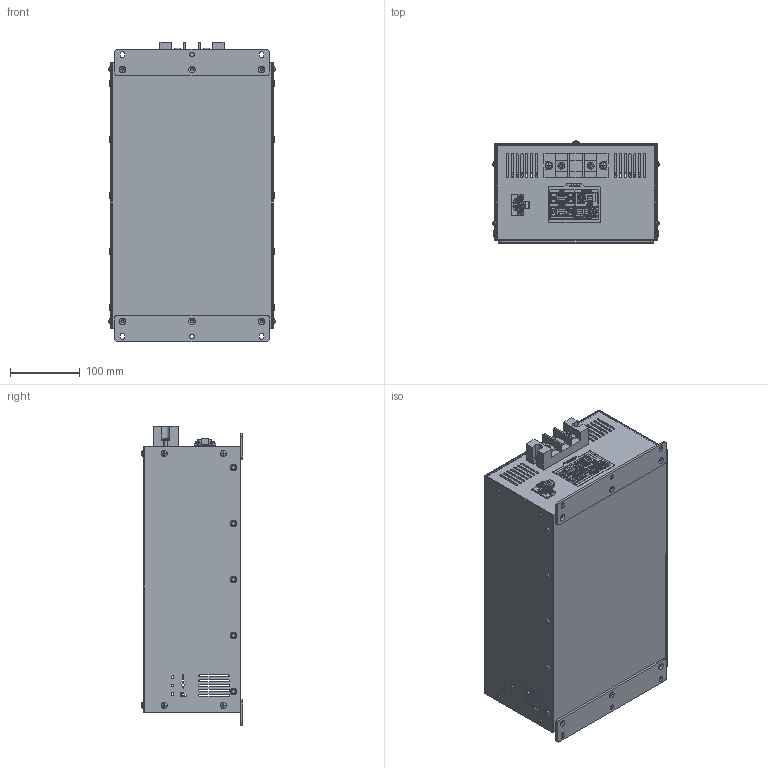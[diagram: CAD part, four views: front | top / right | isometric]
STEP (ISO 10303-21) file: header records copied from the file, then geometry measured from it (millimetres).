
FILE_DESCRIPTION(/* description */ ('','CAx-IF Rec.Pracs.---Representation and Presentation of Product Manufacturing Information (PMI)---4.0---2014-10-13'),/* implementation_level */ '2;1');
FILE_NAME(/* name */ 'H:\04_배터리_전기종\고부하용 배터리 케이스_3D\[NEW] X3COM 고객용\X3COM.stp',/* time_stamp */ '2021-12-10T16:17:16+09:00',/* author */ ('jjang'),/* organization */ (''),/* preprocessor_version */ 'ST-DEVELOPER v18.1',/* originating_system */ 'Autodesk Inventor 2021',/* authorisation */ '');
FILE_SCHEMA (('AP242_MANAGED_MODEL_BASED_3D_ENGINEERING_MIM_LF { 1 0 10303 442 1 1 4 }'));
Products named in the file (3): X3COM; bracket; CASE ASSEMBLY
Assembly tree (3 placements, depth 2):
  X3COM
    bracket  x2
    CASE ASSEMBLY
Bounding box: 238.84 x 145.97 x 430 mm (x, y, z)
Volume: 670133.6 mm3; surface area: 843362 mm2
Topology: 5 solids, 5 shells, 5517 faces, 15116 edges, 10020 vertices
Faces by surface type: plane 2737, bspline 1554, cylinder 1037, torus 135, cone 29, sphere 25
Full cylindrical faces by diameter (mm): 0.609 x1, 0.61 x27, 0.635 x9, 0.9 x6, 1.397 x9, 1.4 x2, 1.75 x2, 2.286 x9, 2.5 x2, 2.8 x8, 3 x2, 3.048 x4, 3.6 x8, 3.7 x2, 3.783 x2, 3.8 x18, 3.9 x2, 4 x17, 4.3 x12, 4.5 x8, 5 x13, 5.3 x20, 6.082 x1, 6.6 x2, 8 x1, 8.8 x10, 9.2 x2, 10 x8, 25.4 x3, 55.4 x3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
Entity records: 210473 total; most frequent: CARTESIAN_POINT 73920, ORIENTED_EDGE 29946, DIRECTION 22871, EDGE_CURVE 14973, VERTEX_POINT 9875, LINE 8577, VECTOR 8577, AXIS2_PLACEMENT_3D 7147
